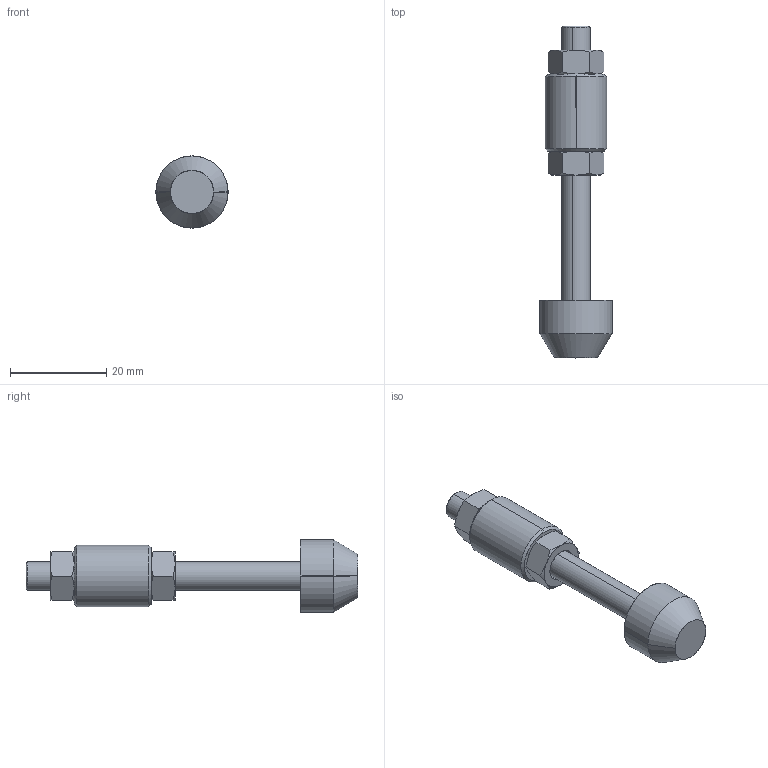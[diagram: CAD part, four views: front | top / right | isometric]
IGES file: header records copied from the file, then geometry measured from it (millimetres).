
Start section: SolidWorks IGES file using analytic representation for surfaces
Global section: file name: C:\Projetos\Ponteiras\BRB\BRB-M6.IGS; native system: SolidWorks 2015; preprocessor: SolidWorks 2015; author: Ricardo; date: 160725.150338; units: millimetre
Bounding box: 15 x 69 x 15 mm (x, y, z)
Surface area: 3950.4 mm2 (no closed solid volume)
Topology: 0 solids, 0 shells, 84 faces, 1048 edges, 1046 vertices
Faces by surface type: revolution 62, bspline 22
